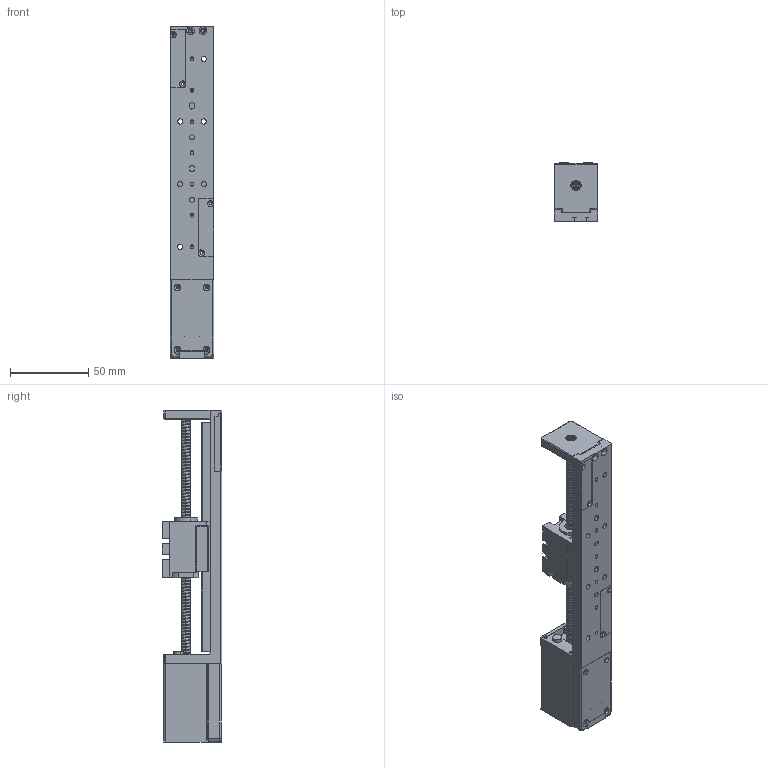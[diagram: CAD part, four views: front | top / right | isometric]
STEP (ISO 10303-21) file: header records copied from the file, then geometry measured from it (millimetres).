
FILE_DESCRIPTION (( 'STEP AP203' ), '1' );
FILE_NAME ('EML28A51-B02100.STEP', '2023-10-28T06:08:00', ( '' ), ( '' ), 'SwSTEP 2.0', 'SolidWorks 2023', '' );
FILE_SCHEMA (( 'CONFIG_CONTROL_DESIGN' ));
Length unit declared in the file: millimetre
Products named in the file (16): 0602滚珠螺母; 28-100光电经济模组基座; JFM-0405-06; 28-42前导光片; 28-42端子线路板; 28经济模组轴承座; 28A50端子罩; XY-1070; 28-42后导光片; 28A51-GZ0602-162电机; EML28A51-B02100; 28滑台安装座; MGN9C滑块; MGN9C-146滑轨; 28单边桥; 防撞牛筋柱3-6
Assembly tree (16 placements, depth 2):
  EML28A51-B02100
    28-100光电经济模组基座
    28经济模组轴承座
    MGN9C-146滑轨
    MGN9C滑块
    JFM-0405-06
    28滑台安装座
    28A51-GZ0602-162电机
    0602滚珠螺母
    28单边桥
    28-42前导光片
    28-42后导光片
    28A50端子罩
    28-42端子线路板
    防撞牛筋柱3-6  x2
    XY-1070
Bounding box: 28 x 38 x 212 mm (x, y, z)
Volume: 104936.6 mm3; surface area: 56419.2 mm2
Topology: 16 solids, 16 shells, 984 faces, 2690 edges, 1715 vertices
Faces by surface type: cylinder 512, plane 363, cone 92, torus 9, bspline 8
Entity records: 51239 total; most frequent: CARTESIAN_POINT 25237, ORIENTED_EDGE 5248, DIRECTION 4971, EDGE_CURVE 2624, AXIS2_PLACEMENT_3D 1760, VERTEX_POINT 1705, LINE 1451, VECTOR 1451
